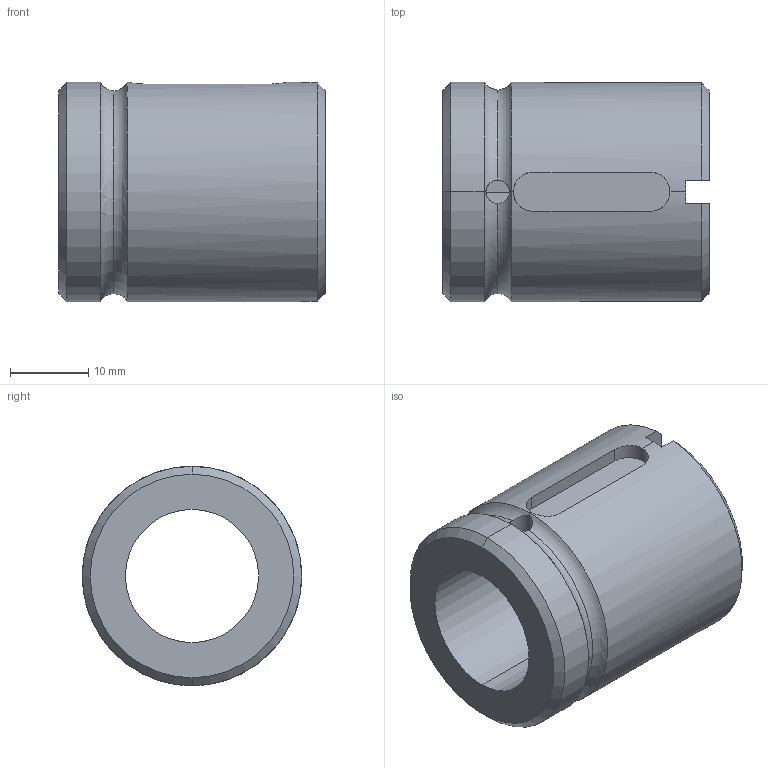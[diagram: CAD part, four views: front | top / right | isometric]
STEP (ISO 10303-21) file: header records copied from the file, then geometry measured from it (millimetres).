
FILE_DESCRIPTION (( 'STEP AP214' ), '1' );
FILE_NAME ('KGM-D 1605.STEP', '2021-01-19T01:30:53', ( 'user' ), ( 'datathink' ), 'SwSTEP 2.0', 'SolidWorks 2013', '' );
FILE_SCHEMA (( 'AUTOMOTIVE_DESIGN' ));
Length unit declared in the file: millimetre
Products named in the file (1): KGM-D 1605
Bounding box: 34 x 28 x 28 mm (x, y, z)
Volume: 12610.8 mm3; surface area: 5670.3 mm2
Topology: 1 solids, 1 shells, 31 faces, 84 edges, 52 vertices
Faces by surface type: plane 12, cylinder 11, torus 4, cone 4
Entity records: 1165 total; most frequent: CARTESIAN_POINT 344, ORIENTED_EDGE 168, DIRECTION 167, EDGE_CURVE 84, AXIS2_PLACEMENT_3D 65, VERTEX_POINT 52, VECTOR 37, LINE 37
